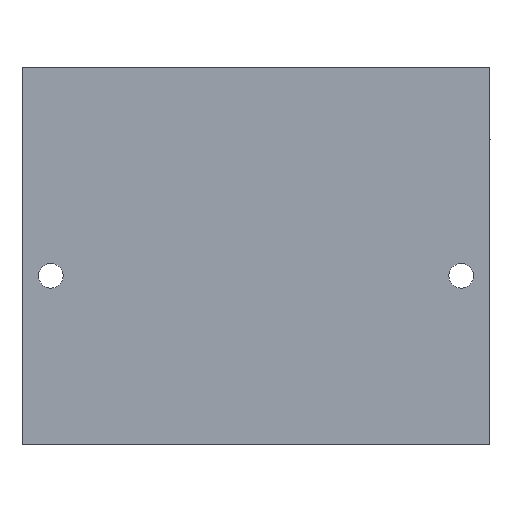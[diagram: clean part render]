
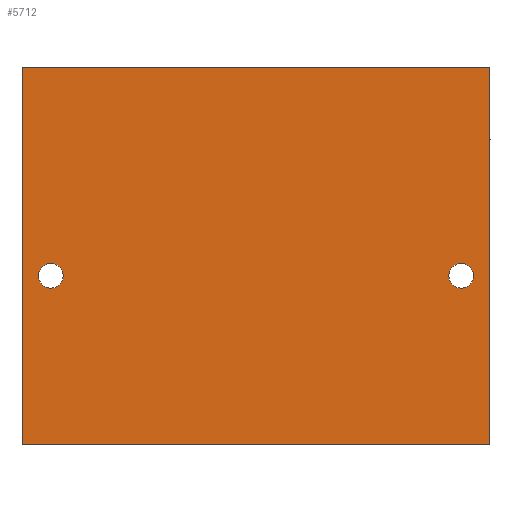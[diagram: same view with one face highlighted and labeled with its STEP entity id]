
A CAD part, front view. The second image highlights one B-rep face of the part: STEP entity #5712.
In plain terms, the highlighted planar face has unit normal (0, -1, 0).
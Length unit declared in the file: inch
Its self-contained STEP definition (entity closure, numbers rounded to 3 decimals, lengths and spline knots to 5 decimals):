
#36 = VERTEX_POINT ( 'NONE', #5920 ) ;
#431 = ORIENTED_EDGE ( 'NONE', *, *, #4533, .T. ) ;
#432 = VERTEX_POINT ( 'NONE', #3270 ) ;
#853 = ORIENTED_EDGE ( 'NONE', *, *, #13675, .F. ) ;
#1050 = ORIENTED_EDGE ( 'NONE', *, *, #4614, .T. ) ;
#1123 = VERTEX_POINT ( 'NONE', #6399 ) ;
#1284 = VERTEX_POINT ( 'NONE', #3144 ) ;
#2087 = CARTESIAN_POINT ( 'NONE',  ( 6.5, 0., -5.25 ) ) ;
#2284 = DIRECTION ( 'NONE',  ( 0., 0., 1. ) ) ;
#2317 = DIRECTION ( 'NONE',  ( 0., 1., 0. ) ) ;
#2385 = CARTESIAN_POINT ( 'NONE',  ( 6.5, 0., 0. ) ) ;
#2501 = PLANE ( 'NONE',  #5713 ) ;
#2603 = LINE ( 'NONE', #9729, #11422 ) ;
#2829 = EDGE_LOOP ( 'NONE', ( #8707, #12262 ) ) ;
#3007 = CIRCLE ( 'NONE', #14059, 0.172 ) ;
#3144 = CARTESIAN_POINT ( 'NONE',  ( 6.1, 0., -2.728 ) ) ;
#3270 = CARTESIAN_POINT ( 'NONE',  ( 0.4, 0., -3.072 ) ) ;
#3663 = DIRECTION ( 'NONE',  ( 0., 1., 0. ) ) ;
#3673 = DIRECTION ( 'NONE',  ( -1., 0., 0. ) ) ;
#3775 = VERTEX_POINT ( 'NONE', #4252 ) ;
#3926 = CARTESIAN_POINT ( 'NONE',  ( 6.5, 0., 0. ) ) ;
#4144 = FACE_BOUND ( 'NONE', #9961, .T. ) ;
#4252 = CARTESIAN_POINT ( 'NONE',  ( 6.1, 0., -3.072 ) ) ;
#4271 = CARTESIAN_POINT ( 'NONE',  ( 0., 0., 0. ) ) ;
#4393 = EDGE_LOOP ( 'NONE', ( #431, #853, #4615, #14653 ) ) ;
#4482 = EDGE_CURVE ( 'NONE', #4970, #6980, #2603, .T. ) ;
#4528 = CARTESIAN_POINT ( 'NONE',  ( 0.4, 0., -2.9 ) ) ;
#4533 = EDGE_CURVE ( 'NONE', #6660, #36, #4762, .T. ) ;
#4581 = EDGE_CURVE ( 'NONE', #1284, #3775, #10669, .T. ) ;
#4614 = EDGE_CURVE ( 'NONE', #1123, #432, #7221, .T. ) ;
#4615 = ORIENTED_EDGE ( 'NONE', *, *, #4482, .F. ) ;
#4762 = LINE ( 'NONE', #9429, #11038 ) ;
#4970 = VERTEX_POINT ( 'NONE', #6600 ) ;
#5371 = LINE ( 'NONE', #3926, #8844 ) ;
#5595 = VECTOR ( 'NONE', #12985, 39.37008 ) ;
#5712 = ADVANCED_FACE ( 'NONE', ( #4144, #7395, #13395 ), #2501, .F. ) ;
#5713 = AXIS2_PLACEMENT_3D ( 'NONE', #2385, #2317, #2284 ) ;
#5781 = DIRECTION ( 'NONE',  ( 0., 0., 1. ) ) ;
#5920 = CARTESIAN_POINT ( 'NONE',  ( 0., 0., -5.25 ) ) ;
#6399 = CARTESIAN_POINT ( 'NONE',  ( 0.4, 0., -2.728 ) ) ;
#6600 = CARTESIAN_POINT ( 'NONE',  ( 6.5, 0., 0. ) ) ;
#6660 = VERTEX_POINT ( 'NONE', #4271 ) ;
#6910 = AXIS2_PLACEMENT_3D ( 'NONE', #8968, #8952, #8937 ) ;
#6980 = VERTEX_POINT ( 'NONE', #13703 ) ;
#7052 = AXIS2_PLACEMENT_3D ( 'NONE', #9262, #9246, #9223 ) ;
#7221 = CIRCLE ( 'NONE', #6910, 0.172 ) ;
#7395 = FACE_BOUND ( 'NONE', #2829, .T. ) ;
#8707 = ORIENTED_EDGE ( 'NONE', *, *, #4581, .T. ) ;
#8712 = LINE ( 'NONE', #2087, #5595 ) ;
#8844 = VECTOR ( 'NONE', #3673, 39.37008 ) ;
#8937 = DIRECTION ( 'NONE',  ( 0., 0., 1. ) ) ;
#8952 = DIRECTION ( 'NONE',  ( 0., 1., 0. ) ) ;
#8968 = CARTESIAN_POINT ( 'NONE',  ( 0.4, 0., -2.9 ) ) ;
#9223 = DIRECTION ( 'NONE',  ( 0., 0., 1. ) ) ;
#9246 = DIRECTION ( 'NONE',  ( 0., 1., 0. ) ) ;
#9262 = CARTESIAN_POINT ( 'NONE',  ( 6.1, 0., -2.9 ) ) ;
#9390 = DIRECTION ( 'NONE',  ( 0., 0., -1. ) ) ;
#9429 = CARTESIAN_POINT ( 'NONE',  ( 0., 0., 0. ) ) ;
#9729 = CARTESIAN_POINT ( 'NONE',  ( 6.5, 0., 0. ) ) ;
#9789 = DIRECTION ( 'NONE',  ( 0., 0., -1. ) ) ;
#9961 = EDGE_LOOP ( 'NONE', ( #1050, #11090 ) ) ;
#10669 = CIRCLE ( 'NONE', #7052, 0.172 ) ;
#10793 = CARTESIAN_POINT ( 'NONE',  ( 6.1, 0., -2.9 ) ) ;
#11038 = VECTOR ( 'NONE', #9390, 39.37008 ) ;
#11090 = ORIENTED_EDGE ( 'NONE', *, *, #15207, .T. ) ;
#11305 = EDGE_CURVE ( 'NONE', #4970, #6660, #5371, .T. ) ;
#11422 = VECTOR ( 'NONE', #9789, 39.37008 ) ;
#12033 = DIRECTION ( 'NONE',  ( 0., 0., 1. ) ) ;
#12262 = ORIENTED_EDGE ( 'NONE', *, *, #15370, .T. ) ;
#12917 = DIRECTION ( 'NONE',  ( 0., 1., 0. ) ) ;
#12985 = DIRECTION ( 'NONE',  ( -1., 0., 0. ) ) ;
#13395 = FACE_OUTER_BOUND ( 'NONE', #4393, .T. ) ;
#13675 = EDGE_CURVE ( 'NONE', #6980, #36, #8712, .T. ) ;
#13703 = CARTESIAN_POINT ( 'NONE',  ( 6.5, 0., -5.25 ) ) ;
#14059 = AXIS2_PLACEMENT_3D ( 'NONE', #4528, #12917, #5781 ) ;
#14226 = AXIS2_PLACEMENT_3D ( 'NONE', #10793, #3663, #12033 ) ;
#14653 = ORIENTED_EDGE ( 'NONE', *, *, #11305, .T. ) ;
#15207 = EDGE_CURVE ( 'NONE', #432, #1123, #3007, .T. ) ;
#15340 = CIRCLE ( 'NONE', #14226, 0.172 ) ;
#15370 = EDGE_CURVE ( 'NONE', #3775, #1284, #15340, .T. ) ;
